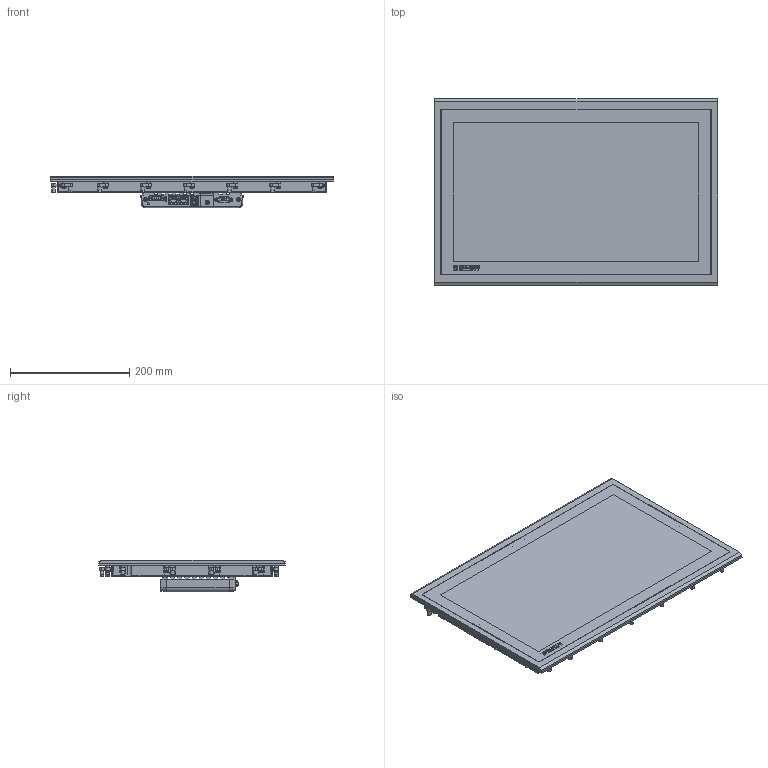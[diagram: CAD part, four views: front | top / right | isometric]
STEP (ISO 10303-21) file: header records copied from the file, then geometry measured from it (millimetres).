
FILE_DESCRIPTION(/* description */ ('-'),/* implementation_level */ '2;1');
FILE_NAME(/* name */ 'C:\Export\0000010067.stp',/* time_stamp */ '2021-06-25T12:04:13+02:00',/* author */ ('-'),/* organization */ ('(c) Beckhoff Automation GmbH & Co. KG, 33415 Verl'),/* preprocessor_version */ 'ST-DEVELOPER v18.1',/* originating_system */ 'Autodesk Inventor 2020',/* authorisation */ '-');
FILE_SCHEMA (('AUTOMOTIVE_DESIGN { 1 0 10303 214 3 1 1 }'));
Products named in the file (1): CP2618-0000-F946
Bounding box: 474.6 x 312.3 x 53.05 mm (x, y, z)
Volume: 3964254.8 mm3; surface area: 453718.9 mm2
Topology: 1 solids, 8 shells, 4089 faces, 11064 edges, 7288 vertices
Faces by surface type: plane 2049, cylinder 1743, cone 147, bspline 77, torus 57, sphere 16
Full cylindrical faces by diameter (mm): 1 x9, 1.567 x2, 2.4 x2, 2.642 x2, 3 x6, 3.2 x4, 3.242 x1, 4 x2, 4.25 x6, 4.4 x1, 4.5 x14, 5.4 x21, 5.5 x40, 5.7 x12, 6 x44, 6.35 x1, 6.5 x2, 6.96 x1, 7.6 x22
Entity records: 137873 total; most frequent: CARTESIAN_POINT 27859, DIRECTION 22638, ORIENTED_EDGE 22044, EDGE_CURVE 11022, AXIS2_PLACEMENT_3D 8273, VERTEX_POINT 7288, LINE 6092, VECTOR 6092
